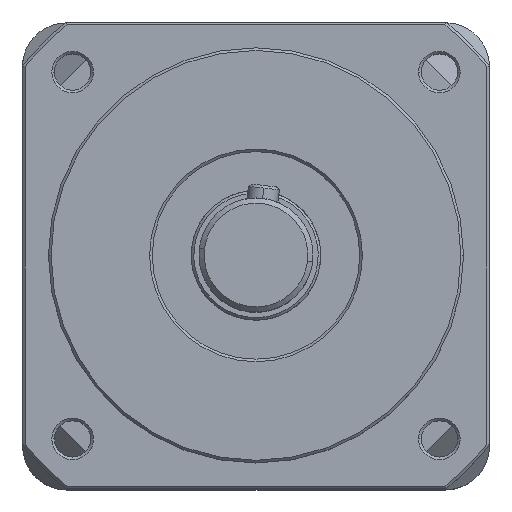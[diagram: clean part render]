
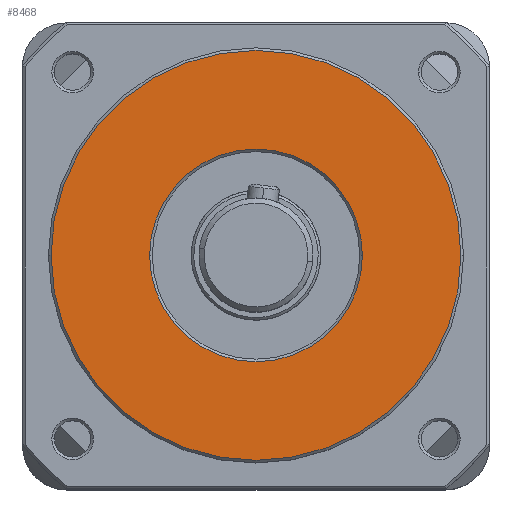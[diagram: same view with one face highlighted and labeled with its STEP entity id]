
A CAD part, top view. The second image highlights one B-rep face of the part: STEP entity #8468.
In plain terms, the highlighted planar face has unit normal (0, 0, 1).
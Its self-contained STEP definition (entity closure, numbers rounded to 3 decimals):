
#1281 = VERTEX_POINT ( 'NONE', #6301 ) ;
#1300 = AXIS2_PLACEMENT_3D ( 'NONE', #3635, #8740, #4368 ) ;
#1432 = AXIS2_PLACEMENT_3D ( 'NONE', #6684, #2309, #7419 ) ;
#1566 = VERTEX_POINT ( 'NONE', #5915 ) ;
#2012 = CIRCLE ( 'NONE', #7014, 39.5 ) ;
#2029 = DIRECTION ( 'NONE',  ( 0., 0., -1. ) ) ;
#2092 = CARTESIAN_POINT ( 'NONE',  ( 0., 0., 125.9 ) ) ;
#2130 = CIRCLE ( 'NONE', #1300, 39.5 ) ;
#2297 = AXIS2_PLACEMENT_3D ( 'NONE', #2092, #7944, #3556 ) ;
#2309 = DIRECTION ( 'NONE',  ( 0., 0., -1. ) ) ;
#3036 = FACE_BOUND ( 'NONE', #4967, .T. ) ;
#3047 = EDGE_LOOP ( 'NONE', ( #3123, #8561 ) ) ;
#3123 = ORIENTED_EDGE ( 'NONE', *, *, #5700, .T. ) ;
#3148 = ORIENTED_EDGE ( 'NONE', *, *, #3959, .T. ) ;
#3533 = PLANE ( 'NONE',  #2297 ) ;
#3556 = DIRECTION ( 'NONE',  ( 1., 0., 0. ) ) ;
#3591 = CARTESIAN_POINT ( 'NONE',  ( -20.5, 0., 125.9 ) ) ;
#3622 = DIRECTION ( 'NONE',  ( 0., 0., 1. ) ) ;
#3635 = CARTESIAN_POINT ( 'NONE',  ( 0., 0., 125.9 ) ) ;
#3959 = EDGE_CURVE ( 'NONE', #5697, #9090, #5056, .T. ) ;
#4368 = DIRECTION ( 'NONE',  ( 1., 0., 0. ) ) ;
#4575 = CARTESIAN_POINT ( 'NONE',  ( 20.5, 0., 125.9 ) ) ;
#4889 = ORIENTED_EDGE ( 'NONE', *, *, #8002, .T. ) ;
#4967 = EDGE_LOOP ( 'NONE', ( #4889, #3148 ) ) ;
#5056 = CIRCLE ( 'NONE', #1432, 20.5 ) ;
#5343 = EDGE_CURVE ( 'NONE', #1566, #1281, #2130, .T. ) ;
#5666 = AXIS2_PLACEMENT_3D ( 'NONE', #6412, #2029, #7160 ) ;
#5697 = VERTEX_POINT ( 'NONE', #3591 ) ;
#5700 = EDGE_CURVE ( 'NONE', #1281, #1566, #2012, .T. ) ;
#5915 = CARTESIAN_POINT ( 'NONE',  ( 39.5, 0., 125.9 ) ) ;
#6301 = CARTESIAN_POINT ( 'NONE',  ( -39.5, 0., 125.9 ) ) ;
#6412 = CARTESIAN_POINT ( 'NONE',  ( 0., 0., 125.9 ) ) ;
#6446 = CIRCLE ( 'NONE', #5666, 20.5 ) ;
#6684 = CARTESIAN_POINT ( 'NONE',  ( 0., 0., 125.9 ) ) ;
#7014 = AXIS2_PLACEMENT_3D ( 'NONE', #8001, #3622, #8729 ) ;
#7160 = DIRECTION ( 'NONE',  ( 1., 0., 0. ) ) ;
#7419 = DIRECTION ( 'NONE',  ( 1., 0., 0. ) ) ;
#7944 = DIRECTION ( 'NONE',  ( 0., 0., 1. ) ) ;
#8001 = CARTESIAN_POINT ( 'NONE',  ( 0., 0., 125.9 ) ) ;
#8002 = EDGE_CURVE ( 'NONE', #9090, #5697, #6446, .T. ) ;
#8468 = ADVANCED_FACE ( 'NONE', ( #3036, #8836 ), #3533, .T. ) ;
#8561 = ORIENTED_EDGE ( 'NONE', *, *, #5343, .T. ) ;
#8729 = DIRECTION ( 'NONE',  ( 1., 0., 0. ) ) ;
#8740 = DIRECTION ( 'NONE',  ( 0., 0., 1. ) ) ;
#8836 = FACE_OUTER_BOUND ( 'NONE', #3047, .T. ) ;
#9090 = VERTEX_POINT ( 'NONE', #4575 ) ;
